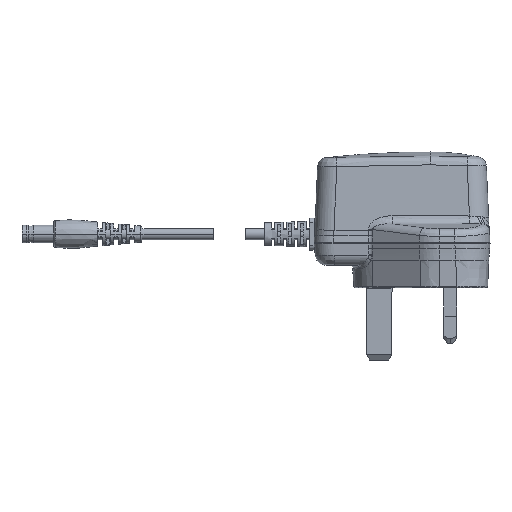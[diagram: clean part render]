
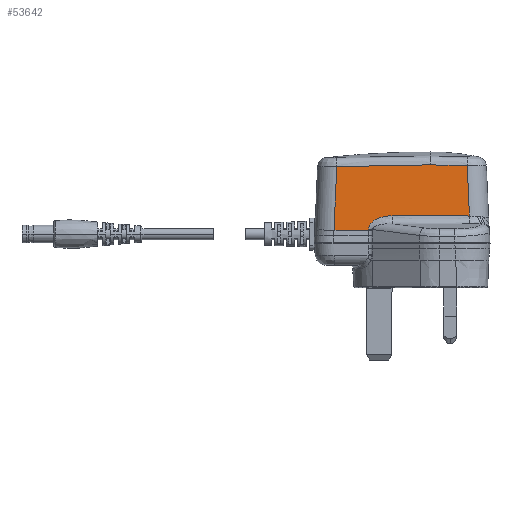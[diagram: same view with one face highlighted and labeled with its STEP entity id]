
A CAD part, front view. The second image highlights one B-rep face of the part: STEP entity #53642.
In plain terms, the highlighted planar face has unit normal (0, -0.999, 0.044) as drawn and (0.999, 0.044, 0) by its records, which use the part's own axes.
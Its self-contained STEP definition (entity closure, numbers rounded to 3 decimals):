
#694 = CARTESIAN_POINT ( 'NONE',  ( 11.63, 8.714, -12.064 ) ) ;
#1052 = CARTESIAN_POINT ( 'NONE',  ( 11.804, 4.745, 10.466 ) ) ;
#1708 = FACE_OUTER_BOUND ( 'NONE', #9624, .T. ) ;
#1902 = VERTEX_POINT ( 'NONE', #58067 ) ;
#2650 = CARTESIAN_POINT ( 'NONE',  ( 11.637, 8.554, 3.377 ) ) ;
#2978 = CARTESIAN_POINT ( 'NONE',  ( 11.642, 8.453, 4.579 ) ) ;
#3189 = CARTESIAN_POINT ( 'NONE',  ( 10.951, 24.284, 11.169 ) ) ;
#3261 = CARTESIAN_POINT ( 'NONE',  ( 10.956, 24.166, -20.411 ) ) ;
#4462 = ORIENTED_EDGE ( 'NONE', *, *, #4897, .T. ) ;
#4897 = EDGE_CURVE ( 'NONE', #51417, #60698, #42058, .T. ) ;
#4941 = LINE ( 'NONE', #9507, #37028 ) ;
#6550 = CARTESIAN_POINT ( 'NONE',  ( 11.635, 8.609, 1.675 ) ) ;
#7531 = CARTESIAN_POINT ( 'NONE',  ( 11.698, 7.168, 8.553 ) ) ;
#7692 = CARTESIAN_POINT ( 'NONE',  ( 10.941, 24.505, -8.999 ) ) ;
#8169 = CARTESIAN_POINT ( 'NONE',  ( 11.79, 5.066, 10.38 ) ) ;
#8274 = CARTESIAN_POINT ( 'NONE',  ( 11.833, 4.078, 10.523 ) ) ;
#9495 = EDGE_CURVE ( 'NONE', #24661, #1902, #24380, .T. ) ;
#9507 = CARTESIAN_POINT ( 'NONE',  ( 11.641, 8.472, -21.096 ) ) ;
#9624 = EDGE_LOOP ( 'NONE', ( #23353, #17441, #60565, #41312, #4462, #33820, #38227, #35832 ) ) ;
#10085 = EDGE_CURVE ( 'NONE', #1902, #51417, #12044, .T. ) ;
#11438 = CARTESIAN_POINT ( 'NONE',  ( 11.629, 8.74, -4.888 ) ) ;
#11978 = VERTEX_POINT ( 'NONE', #31511 ) ;
#12044 = B_SPLINE_CURVE_WITH_KNOTS ( 'NONE', 3,
 ( #52607, #8274, #22940, #47713 ),
 .UNSPECIFIED., .F., .F.,
 ( 4, 4 ),
 ( 0., 1. ),
 .UNSPECIFIED. ) ;
#12097 = CARTESIAN_POINT ( 'NONE',  ( 11.822, 4.318, 10.518 ) ) ;
#12272 = EDGE_CURVE ( 'NONE', #49285, #24661, #42145, .T. ) ;
#12744 = CARTESIAN_POINT ( 'NONE',  ( 11.733, 6.359, 9.573 ) ) ;
#13380 = CARTESIAN_POINT ( 'NONE',  ( 11.646, 8.352, 5.24 ) ) ;
#13708 = CARTESIAN_POINT ( 'NONE',  ( 11.665, 7.919, 6.936 ) ) ;
#14335 = CARTESIAN_POINT ( 'NONE',  ( 10.965, 23.949, 20.471 ) ) ;
#15344 = VECTOR ( 'NONE', #27464, 1000. ) ;
#16691 = DIRECTION ( 'NONE',  ( -0.999, -0.044, 0. ) ) ;
#17385 = EDGE_CURVE ( 'NONE', #18355, #49285, #39484, .T. ) ;
#17441 = ORIENTED_EDGE ( 'NONE', *, *, #12272, .T. ) ;
#18355 = VERTEX_POINT ( 'NONE', #44264 ) ;
#18770 = CARTESIAN_POINT ( 'NONE',  ( 10.944, 24.447, -14.082 ) ) ;
#18813 = CARTESIAN_POINT ( 'NONE',  ( 10.941, 24.507, -5.715 ) ) ;
#20929 = CARTESIAN_POINT ( 'NONE',  ( 11.797, 4.904, 10.428 ) ) ;
#21594 = PLANE ( 'NONE',  #49709 ) ;
#22843 = CARTESIAN_POINT ( 'NONE',  ( 11.707, 6.967, 8.857 ) ) ;
#22940 = CARTESIAN_POINT ( 'NONE',  ( 11.829, 4.171, 10.522 ) ) ;
#23009 = CARTESIAN_POINT ( 'NONE',  ( 10.953, 24.237, -19.27 ) ) ;
#23158 = CARTESIAN_POINT ( 'NONE',  ( 11.775, 5.401, 10.246 ) ) ;
#23353 = ORIENTED_EDGE ( 'NONE', *, *, #17385, .T. ) ;
#23765 = VECTOR ( 'NONE', #34479, 1000. ) ;
#24380 = LINE ( 'NONE', #33823, #23765 ) ;
#24661 = VERTEX_POINT ( 'NONE', #31759 ) ;
#26414 = CARTESIAN_POINT ( 'NONE',  ( 11.639, 8.528, -19.413 ) ) ;
#27086 = CARTESIAN_POINT ( 'NONE',  ( 11.689, 7.365, 8.212 ) ) ;
#27464 = DIRECTION ( 'NONE',  ( 0.044, -0.998, 0.044 ) ) ;
#27858 = EDGE_CURVE ( 'NONE', #60698, #11978, #44893, .T. ) ;
#28362 = CARTESIAN_POINT ( 'NONE',  ( 11.716, 6.764, 9.126 ) ) ;
#29387 = DIRECTION ( 'NONE',  ( -0.044, 0.998, 0.044 ) ) ;
#31511 = CARTESIAN_POINT ( 'NONE',  ( 11.641, 8.472, -21.096 ) ) ;
#31759 = CARTESIAN_POINT ( 'NONE',  ( 11.837, 3.986, 21.343 ) ) ;
#32309 = CARTESIAN_POINT ( 'NONE',  ( 11.673, 7.743, 7.406 ) ) ;
#32608 = CARTESIAN_POINT ( 'NONE',  ( 11.783, 5.231, 10.32 ) ) ;
#33820 = ORIENTED_EDGE ( 'NONE', *, *, #27858, .T. ) ;
#33823 = CARTESIAN_POINT ( 'NONE',  ( 11.837, 3.986, 21.343 ) ) ;
#34391 = CARTESIAN_POINT ( 'NONE',  ( 11.637, 8.562, 3.122 ) ) ;
#34479 = DIRECTION ( 'NONE',  ( 0., 0., -1. ) ) ;
#35832 = ORIENTED_EDGE ( 'NONE', *, *, #52999, .T. ) ;
#36539 = CARTESIAN_POINT ( 'NONE',  ( 10.941, 24.505, -8.999 ) ) ;
#36580 = DIRECTION ( 'NONE',  ( -0.044, 0.999, 0. ) ) ;
#37028 = VECTOR ( 'NONE', #29387, 1000. ) ;
#37518 = CARTESIAN_POINT ( 'NONE',  ( 11.751, 5.955, 9.915 ) ) ;
#37994 = CARTESIAN_POINT ( 'NONE',  ( 10.941, 24.505, -9.757 ) ) ;
#38227 = ORIENTED_EDGE ( 'NONE', *, *, #47767, .T. ) ;
#39484 = B_SPLINE_CURVE_WITH_KNOTS ( 'NONE', 3,
 ( #36539, #18813, #48455, #3189, #63120, #42608 ),
 .UNSPECIFIED., .F., .F.,
 ( 4, 1, 1, 4 ),
 ( 0., 0.333, 0.667, 1. ),
 .UNSPECIFIED. ) ;
#41312 = ORIENTED_EDGE ( 'NONE', *, *, #10085, .T. ) ;
#41451 = CARTESIAN_POINT ( 'NONE',  ( 11.825, 4.264, 10.52 ) ) ;
#42058 = B_SPLINE_CURVE_WITH_KNOTS ( 'NONE', 3,
 ( #41451, #12097, #61338, #45679, #1052, #20929, #8169, #32608, #23158, #51869, #63239, #37518, #52193, #12744, #43025, #28362, #22843, #7531, #27086, #48241, #32309, #13708, #43352, #52498, #13380, #2978, #62902, #2650, #61956 ),
 .UNSPECIFIED., .F., .F.,
 ( 4, 1, 1, 1, 1, 1, 1, 1, 1, 1, 1, 1, 1, 1, 1, 1, 1, 1, 1, 1, 1, 1, 1, 1, 1, 1, 4 ),
 ( 0., 0.038, 0.077, 0.115, 0.154, 0.192, 0.231, 0.269, 0.308, 0.346, 0.385, 0.423, 0.462, 0.5, 0.538, 0.577, 0.615, 0.654, 0.692, 0.731, 0.769, 0.808, 0.846, 0.885, 0.923, 0.962, 1. ),
 .UNSPECIFIED. ) ;
#42145 = LINE ( 'NONE', #57175, #15344 ) ;
#42577 = VERTEX_POINT ( 'NONE', #3261 ) ;
#42608 = CARTESIAN_POINT ( 'NONE',  ( 10.965, 23.949, 20.471 ) ) ;
#42874 = CARTESIAN_POINT ( 'NONE',  ( 10.948, 24.348, -17.081 ) ) ;
#43025 = CARTESIAN_POINT ( 'NONE',  ( 11.724, 6.561, 9.364 ) ) ;
#43352 = CARTESIAN_POINT ( 'NONE',  ( 11.658, 8.081, 6.419 ) ) ;
#44264 = CARTESIAN_POINT ( 'NONE',  ( 10.941, 24.505, -8.999 ) ) ;
#44893 = B_SPLINE_CURVE_WITH_KNOTS ( 'NONE', 3,
 ( #50556, #6550, #60985, #11438, #55452, #694, #60658, #26414, #49029 ),
 .UNSPECIFIED., .F., .F.,
 ( 4, 1, 1, 1, 1, 1, 4 ),
 ( 0., 0.167, 0.333, 0.5, 0.667, 0.833, 1. ),
 .UNSPECIFIED. ) ;
#45679 = CARTESIAN_POINT ( 'NONE',  ( 11.811, 4.586, 10.494 ) ) ;
#46319 = CARTESIAN_POINT ( 'NONE',  ( 11.825, 4.264, 10.52 ) ) ;
#47713 = CARTESIAN_POINT ( 'NONE',  ( 11.825, 4.264, 10.52 ) ) ;
#47767 = EDGE_CURVE ( 'NONE', #11978, #42577, #4941, .T. ) ;
#47784 = CARTESIAN_POINT ( 'NONE',  ( 10.956, 24.166, -20.411 ) ) ;
#48241 = CARTESIAN_POINT ( 'NONE',  ( 11.681, 7.558, 7.831 ) ) ;
#48422 = B_SPLINE_CURVE_WITH_KNOTS ( 'NONE', 3,
 ( #47784, #23009, #42874, #18770, #52353, #37994, #7692 ),
 .UNSPECIFIED., .F., .F.,
 ( 4, 1, 1, 1, 4 ),
 ( 0., 0.25, 0.5, 0.75, 1. ),
 .UNSPECIFIED. ) ;
#48455 = CARTESIAN_POINT ( 'NONE',  ( 10.942, 24.473, 0.852 ) ) ;
#49029 = CARTESIAN_POINT ( 'NONE',  ( 11.641, 8.472, -21.096 ) ) ;
#49285 = VERTEX_POINT ( 'NONE', #14335 ) ;
#49709 = AXIS2_PLACEMENT_3D ( 'NONE', #61346, #16691, #36580 ) ;
#50556 = CARTESIAN_POINT ( 'NONE',  ( 11.637, 8.562, 3.122 ) ) ;
#51417 = VERTEX_POINT ( 'NONE', #46319 ) ;
#51869 = CARTESIAN_POINT ( 'NONE',  ( 11.767, 5.577, 10.156 ) ) ;
#52193 = CARTESIAN_POINT ( 'NONE',  ( 11.742, 6.157, 9.756 ) ) ;
#52353 = CARTESIAN_POINT ( 'NONE',  ( 10.941, 24.496, -11.371 ) ) ;
#52498 = CARTESIAN_POINT ( 'NONE',  ( 11.652, 8.226, 5.853 ) ) ;
#52607 = CARTESIAN_POINT ( 'NONE',  ( 11.837, 3.986, 10.525 ) ) ;
#52999 = EDGE_CURVE ( 'NONE', #42577, #18355, #48422, .T. ) ;
#53642 = ADVANCED_FACE ( 'NONE', ( #1708 ), #21594, .F. ) ;
#55452 = CARTESIAN_POINT ( 'NONE',  ( 11.629, 8.751, -8.414 ) ) ;
#57175 = CARTESIAN_POINT ( 'NONE',  ( 10.965, 23.949, 20.471 ) ) ;
#58067 = CARTESIAN_POINT ( 'NONE',  ( 11.837, 3.986, 10.525 ) ) ;
#60565 = ORIENTED_EDGE ( 'NONE', *, *, #9495, .T. ) ;
#60658 = CARTESIAN_POINT ( 'NONE',  ( 11.634, 8.624, -16.236 ) ) ;
#60698 = VERTEX_POINT ( 'NONE', #34391 ) ;
#60985 = CARTESIAN_POINT ( 'NONE',  ( 11.632, 8.683, -1.104 ) ) ;
#61338 = CARTESIAN_POINT ( 'NONE',  ( 11.818, 4.426, 10.512 ) ) ;
#61346 = CARTESIAN_POINT ( 'NONE',  ( 10.701, 30., -40. ) ) ;
#61956 = CARTESIAN_POINT ( 'NONE',  ( 11.637, 8.562, 3.122 ) ) ;
#62902 = CARTESIAN_POINT ( 'NONE',  ( 11.639, 8.526, 3.875 ) ) ;
#63120 = CARTESIAN_POINT ( 'NONE',  ( 10.96, 24.074, 17.422 ) ) ;
#63239 = CARTESIAN_POINT ( 'NONE',  ( 11.759, 5.761, 10.047 ) ) ;
